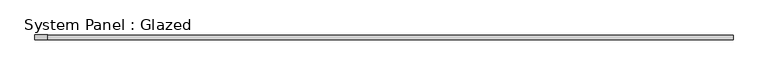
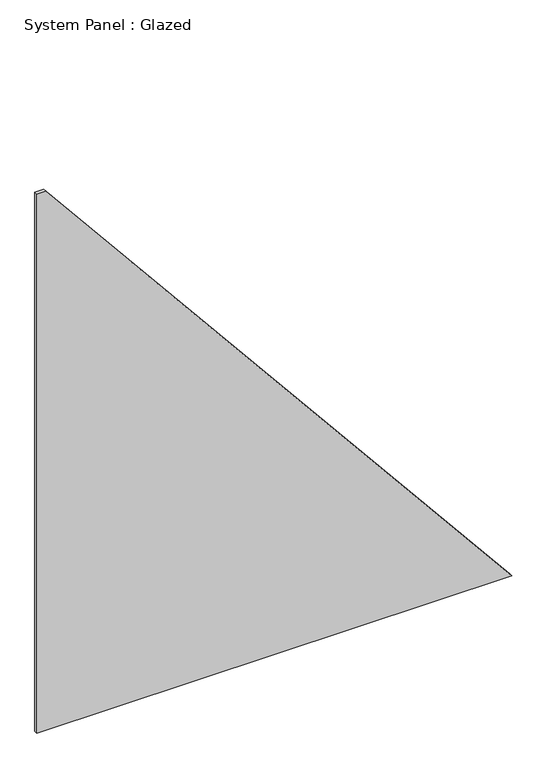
"""IFC4 building model written with IfcOpenShell, lengths in millimetres: plate geometry, System Panel : Glazed."""

from ifc_helpers import new_model, si_unit, frame, origin, place, context, project, spatial, polyline, outline, extrude, source, transform, mapped, element, save


def system_panel_glazed_4af0c66e(model_context):
    return source(origin(), model_context, "Body", "SweptSolid", [
        extrude(outline(polyline([(0.0, -714.7043102), (0.0, 714.7043102), (1712.8880144, -688.4114085), (1712.8880144, -714.7043102), (0.0, -714.7043102)])), frame((0.0, -5.0, 0.0), z_axis=(0.0, 1.0, 0.0), x_axis=(0.0, 0.0, 1.0)), (0.0, 0.0, 1.0), 10.0),
    ])


if __name__ == "__main__":
    model = new_model("IFC4")
    model_context = context("Model", 3, world=origin())
    ifc_project = project(units=[si_unit("LENGTHUNIT", "METRE", prefix="MILLI")], contexts=[model_context])
    site = spatial("IfcSite", under=ifc_project)
    building = spatial("IfcBuilding", under=site)
    placement = place(None, origin())
    system_panel_glazed_shape = system_panel_glazed_4af0c66e(model_context)
    element("IfcPlate", 1, ObjectType="System Panel : Glazed", at=placement, inside=building, context=model_context, shape_type="MappedRepresentation", body=[
        mapped(system_panel_glazed_shape, transform((0.0, 0.0, 0.0), x_axis=(1.0, 0.0, 0.0), y_axis=(0.0, 1.0, 0.0), z_axis=(0.0, 0.0, 1.0))),
    ])
    save(model, "model.ifc")
